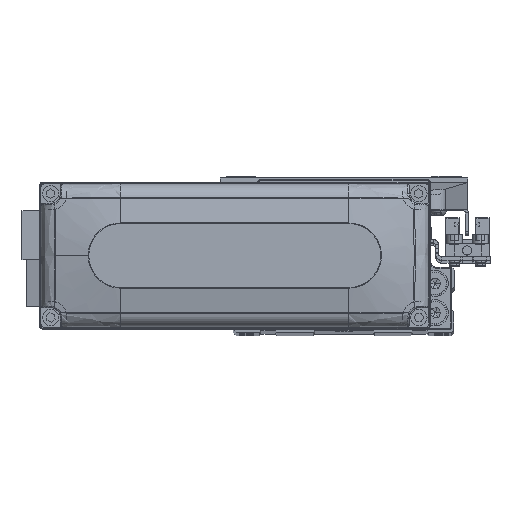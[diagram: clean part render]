
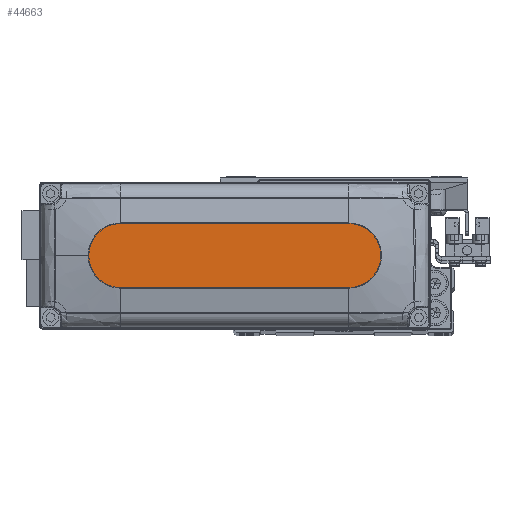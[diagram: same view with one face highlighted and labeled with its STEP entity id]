
A CAD part, top view. The second image highlights one B-rep face of the part: STEP entity #44663.
In plain terms, the highlighted planar face has unit normal (0, 0, 1).
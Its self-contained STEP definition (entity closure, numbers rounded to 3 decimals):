
#1503 = DIRECTION ( 'NONE',  ( 1., 0., 0. ) ) ;
#2150 = ORIENTED_EDGE ( 'NONE', *, *, #2283, .T. ) ;
#2283 = EDGE_CURVE ( 'NONE', #14611, #25189, #41314, .T. ) ;
#3358 = CARTESIAN_POINT ( 'NONE',  ( 45., 0., 28. ) ) ;
#3640 = EDGE_CURVE ( 'NONE', #25189, #18537, #18651, .T. ) ;
#4924 = PLANE ( 'NONE',  #17009 ) ;
#5097 = CARTESIAN_POINT ( 'NONE',  ( -35., -10., 28. ) ) ;
#5199 = EDGE_CURVE ( 'NONE', #18537, #9616, #25335, .T. ) ;
#5290 = DIRECTION ( 'NONE',  ( 1., 0., 0. ) ) ;
#7983 = DIRECTION ( 'NONE',  ( -1., 0., 0. ) ) ;
#9616 = VERTEX_POINT ( 'NONE', #16949 ) ;
#9671 = CARTESIAN_POINT ( 'NONE',  ( -35., 0., 28. ) ) ;
#9883 = EDGE_CURVE ( 'NONE', #17193, #14611, #36378, .T. ) ;
#10362 = DIRECTION ( 'NONE',  ( 0., 0., 1. ) ) ;
#12866 = CARTESIAN_POINT ( 'NONE',  ( -35., -10., 28. ) ) ;
#14611 = VERTEX_POINT ( 'NONE', #37193 ) ;
#16949 = CARTESIAN_POINT ( 'NONE',  ( -35., 10., 28. ) ) ;
#16956 = CARTESIAN_POINT ( 'NONE',  ( 35., 10., 28. ) ) ;
#17009 = AXIS2_PLACEMENT_3D ( 'NONE', #18804, #32766, #1503 ) ;
#17193 = VERTEX_POINT ( 'NONE', #12866 ) ;
#18537 = VERTEX_POINT ( 'NONE', #16956 ) ;
#18621 = AXIS2_PLACEMENT_3D ( 'NONE', #22622, #36573, #5290 ) ;
#18651 = CIRCLE ( 'NONE', #18621, 10. ) ;
#18804 = CARTESIAN_POINT ( 'NONE',  ( 0., 0., 28. ) ) ;
#18977 = DIRECTION ( 'NONE',  ( 1., 0., 0. ) ) ;
#22299 = AXIS2_PLACEMENT_3D ( 'NONE', #9671, #23595, #37568 ) ;
#22622 = CARTESIAN_POINT ( 'NONE',  ( 35., 0., 28. ) ) ;
#23595 = DIRECTION ( 'NONE',  ( 0., 0., 1. ) ) ;
#24291 = DIRECTION ( 'NONE',  ( 1., 0., 0. ) ) ;
#25189 = VERTEX_POINT ( 'NONE', #3358 ) ;
#25335 = LINE ( 'NONE', #39285, #32288 ) ;
#25488 = ORIENTED_EDGE ( 'NONE', *, *, #39565, .T. ) ;
#27736 = ORIENTED_EDGE ( 'NONE', *, *, #9883, .T. ) ;
#28899 = ORIENTED_EDGE ( 'NONE', *, *, #3640, .T. ) ;
#29875 = VECTOR ( 'NONE', #18977, 1000. ) ;
#32288 = VECTOR ( 'NONE', #7983, 1000. ) ;
#32766 = DIRECTION ( 'NONE',  ( 0., 0., 1. ) ) ;
#36201 = FACE_OUTER_BOUND ( 'NONE', #36742, .T. ) ;
#36378 = LINE ( 'NONE', #5097, #29875 ) ;
#36573 = DIRECTION ( 'NONE',  ( 0., 0., 1. ) ) ;
#36742 = EDGE_LOOP ( 'NONE', ( #37474, #25488, #27736, #2150, #28899 ) ) ;
#37193 = CARTESIAN_POINT ( 'NONE',  ( 35., -10., 28. ) ) ;
#37474 = ORIENTED_EDGE ( 'NONE', *, *, #5199, .T. ) ;
#37568 = DIRECTION ( 'NONE',  ( 1., 0., 0. ) ) ;
#39285 = CARTESIAN_POINT ( 'NONE',  ( -35., 10., 28. ) ) ;
#39565 = EDGE_CURVE ( 'NONE', #9616, #17193, #41994, .T. ) ;
#41279 = AXIS2_PLACEMENT_3D ( 'NONE', #41662, #10362, #24291 ) ;
#41314 = CIRCLE ( 'NONE', #41279, 10. ) ;
#41662 = CARTESIAN_POINT ( 'NONE',  ( 35., 0., 28. ) ) ;
#41994 = CIRCLE ( 'NONE', #22299, 10. ) ;
#44663 = ADVANCED_FACE ( 'NONE', ( #36201 ), #4924, .T. ) ;
